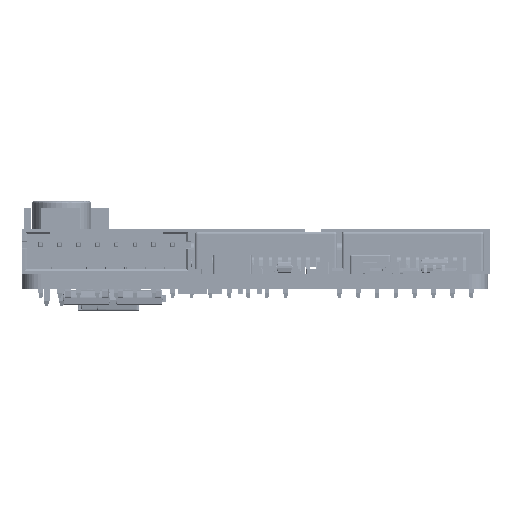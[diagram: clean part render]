
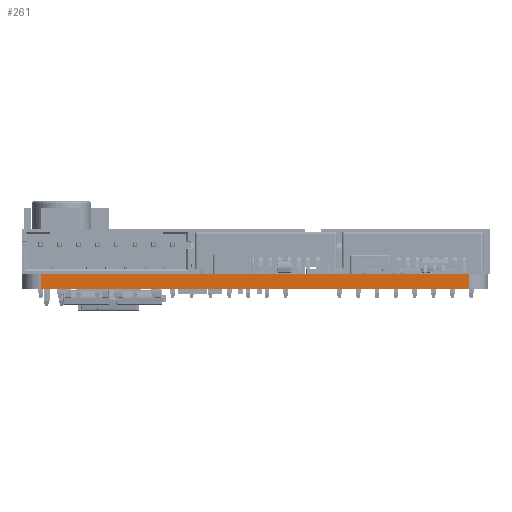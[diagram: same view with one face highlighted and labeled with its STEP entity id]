
A CAD part, front view. The second image highlights one B-rep face of the part: STEP entity #261.
In plain terms, the highlighted planar face has unit normal (0, -1, 0).
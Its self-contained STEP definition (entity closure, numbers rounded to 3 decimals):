
#234 = VERTEX_POINT('',#235);
#235 = CARTESIAN_POINT('',(47.5,0.013,    1.6));
#242 = EDGE_CURVE('',#243,#234,#245,.T.);
#243 = VERTEX_POINT('',#244);
#244 = CARTESIAN_POINT('',(47.5,0.013,0.));
#245 = LINE('',#246,#247);
#246 = CARTESIAN_POINT('',(47.5,0.013,0.));
#247 = VECTOR('',#248,1.);
#248 = DIRECTION('',(0.,0.,1.));
#261 = ADVANCED_FACE('',(#262),#287,.T.);
#262 = FACE_BOUND('',#263,.T.);
#263 = EDGE_LOOP('',(#264,#265,#273,#281));
#264 = ORIENTED_EDGE('',*,*,#242,.T.);
#265 = ORIENTED_EDGE('',*,*,#266,.T.);
#266 = EDGE_CURVE('',#234,#267,#269,.T.);
#267 = VERTEX_POINT('',#268);
#268 = CARTESIAN_POINT('',(2.,0.013,    1.6));
#269 = LINE('',#270,#271);
#270 = CARTESIAN_POINT('',(47.5,0.013,    1.6));
#271 = VECTOR('',#272,1.);
#272 = DIRECTION('',(-1.,0.,0.));
#273 = ORIENTED_EDGE('',*,*,#274,.F.);
#274 = EDGE_CURVE('',#275,#267,#277,.T.);
#275 = VERTEX_POINT('',#276);
#276 = CARTESIAN_POINT('',(2.,0.013,0.));
#277 = LINE('',#278,#279);
#278 = CARTESIAN_POINT('',(2.,0.013,0.));
#279 = VECTOR('',#280,1.);
#280 = DIRECTION('',(0.,0.,1.));
#281 = ORIENTED_EDGE('',*,*,#282,.F.);
#282 = EDGE_CURVE('',#243,#275,#283,.T.);
#283 = LINE('',#284,#285);
#284 = CARTESIAN_POINT('',(47.5,0.013,0.));
#285 = VECTOR('',#286,1.);
#286 = DIRECTION('',(-1.,0.,0.));
#287 = PLANE('',#288);
#288 = AXIS2_PLACEMENT_3D('',#289,#290,#291);
#289 = CARTESIAN_POINT('',(47.5,0.013,0.));
#290 = DIRECTION('',(0.,-1.,0.));
#291 = DIRECTION('',(-1.,0.,0.));
